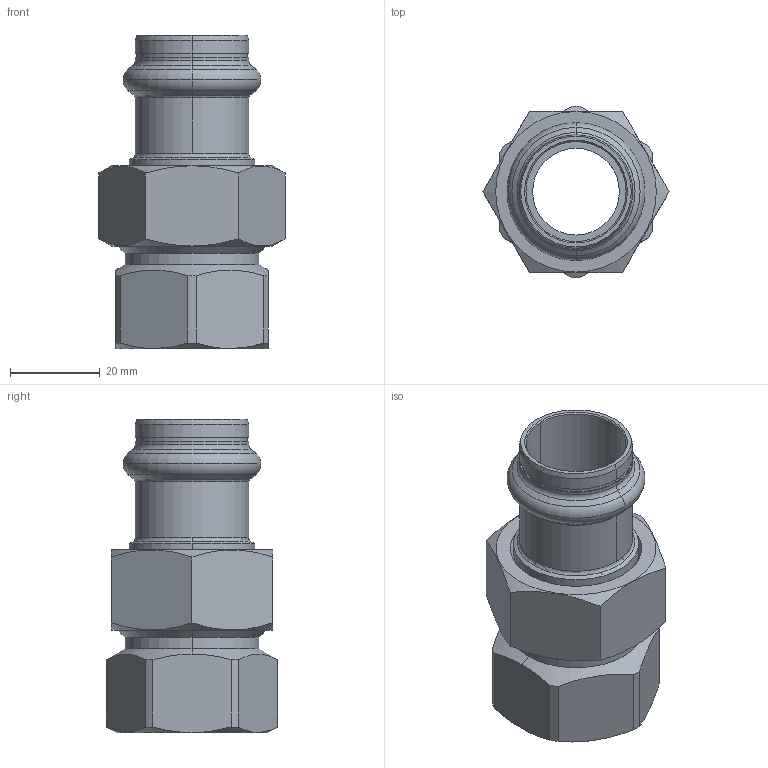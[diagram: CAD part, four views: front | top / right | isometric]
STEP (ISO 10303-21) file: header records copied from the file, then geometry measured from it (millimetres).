
FILE_DESCRIPTION(('CoCreate Modeling STEP Export'),'2;1');
FILE_NAME('8330GVW2234.stp','2013-03-05T13:17:52',(''),(''),'CoCreate Modeling STEP processor for AP214 (Solid Model)','CoCreate Modeling 17.00A 17-Jun-2010 (C) Parametric Technology GmbH','');
FILE_SCHEMA(('AUTOMOTIVE_DESIGN { 1 0 10303 214 1 1 1 1 }'));
Length unit declared in the file: millimetre
Products named in the file (4): DRAAD; MOER; Wartelpuntstuk_C-pr_22x1.1; 8330GVW2234
Assembly tree (3 placements, depth 2):
  8330GVW2234
    Wartelpuntstuk_C-pr_22x1.1
    MOER
    DRAAD
Bounding box: 41.57 x 38.19 x 70 mm (x, y, z)
Volume: 30359.9 mm3; surface area: 18001 mm2
Topology: 3 solids, 3 shells, 120 faces, 284 edges, 174 vertices
Faces by surface type: cylinder 44, cone 40, plane 22, torus 14
Entity records: 4723 total; most frequent: CARTESIAN_POINT 2264, ORIENTED_EDGE 568, DIRECTION 372, EDGE_CURVE 284, VERTEX_POINT 174, AXIS2_PLACEMENT_3D 138, EDGE_LOOP 130, FACE_OUTER_BOUND 120
